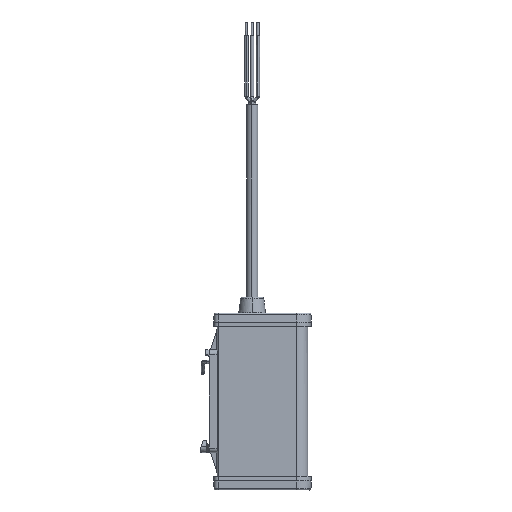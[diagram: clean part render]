
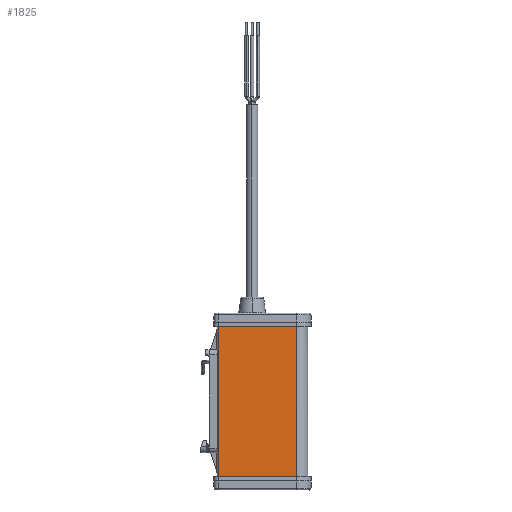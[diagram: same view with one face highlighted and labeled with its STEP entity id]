
A CAD part, left-side view. The second image highlights one B-rep face of the part: STEP entity #1825.
In plain terms, the highlighted planar face has unit normal (-1, 0, 0).
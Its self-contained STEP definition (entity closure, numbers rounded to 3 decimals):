
#99=PLANE('',#14210);
#630=B_SPLINE_CURVE_WITH_KNOTS('',1,(#31462,#31463),.UNSPECIFIED.,.F.,.F.,
(2,2),(0.,70.),.UNSPECIFIED.);
#634=B_SPLINE_CURVE_WITH_KNOTS('',1,(#31482,#31483),.UNSPECIFIED.,.F.,.F.,
(2,2),(0.,34.5),.UNSPECIFIED.);
#635=B_SPLINE_CURVE_WITH_KNOTS('',1,(#31484,#31485),.UNSPECIFIED.,.F.,.F.,
(2,2),(-34.5,0.),.UNSPECIFIED.);
#636=B_SPLINE_CURVE_WITH_KNOTS('',1,(#31486,#31487),.UNSPECIFIED.,.F.,.F.,
(2,2),(-70.,0.),.UNSPECIFIED.);
#1825=ADVANCED_FACE('',(#2590),#99,.T.);
#2590=FACE_OUTER_BOUND('',#3377,.T.);
#3377=EDGE_LOOP('',(#5277,#5278,#5279,#5280));
#5277=ORIENTED_EDGE('',*,*,#8992,.T.);
#5278=ORIENTED_EDGE('',*,*,#8985,.T.);
#5279=ORIENTED_EDGE('',*,*,#8993,.T.);
#5280=ORIENTED_EDGE('',*,*,#8994,.T.);
#8985=EDGE_CURVE('',#12662,#12663,#630,.T.);
#8992=EDGE_CURVE('',#12668,#12662,#634,.T.);
#8993=EDGE_CURVE('',#12663,#12669,#635,.T.);
#8994=EDGE_CURVE('',#12669,#12668,#636,.T.);
#12662=VERTEX_POINT('',#31336);
#12663=VERTEX_POINT('',#31337);
#12668=VERTEX_POINT('',#31342);
#12669=VERTEX_POINT('',#31343);
#14210=AXIS2_PLACEMENT_3D('',#31220,#14391,$);
#14391=DIRECTION('',(-1.,0.,0.));
#31220=CARTESIAN_POINT('',(-62.5,20.051,-23.45));
#31336=CARTESIAN_POINT('',(-62.5,16.6,-30.451));
#31337=CARTESIAN_POINT('',(-62.5,16.6,-100.451));
#31342=CARTESIAN_POINT('',(-62.5,-17.9,-30.451));
#31343=CARTESIAN_POINT('',(-62.5,-17.9,-100.451));
#31462=CARTESIAN_POINT('',(-62.5,16.6,-30.451));
#31463=CARTESIAN_POINT('',(-62.5,16.6,-100.451));
#31482=CARTESIAN_POINT('',(-62.5,-17.9,-30.451));
#31483=CARTESIAN_POINT('',(-62.5,16.6,-30.451));
#31484=CARTESIAN_POINT('',(-62.5,16.6,-100.451));
#31485=CARTESIAN_POINT('',(-62.5,-17.9,-100.451));
#31486=CARTESIAN_POINT('',(-62.5,-17.9,-100.451));
#31487=CARTESIAN_POINT('',(-62.5,-17.9,-30.451));
